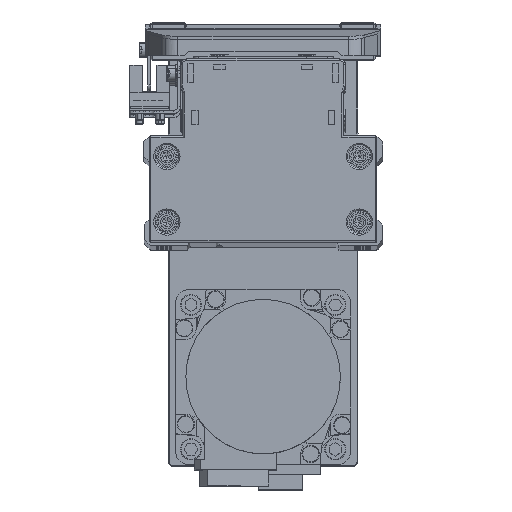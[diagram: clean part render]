
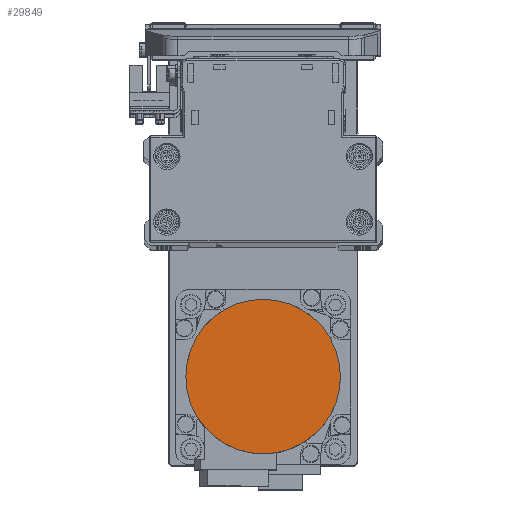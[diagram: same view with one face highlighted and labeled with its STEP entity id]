
A CAD part, top view. The second image highlights one B-rep face of the part: STEP entity #29849.
In plain terms, the highlighted planar face has unit normal (0, 0, 1) as drawn and (0, 0, -1) by its records, which use the part's own axes.
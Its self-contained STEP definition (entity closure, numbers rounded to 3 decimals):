
#1327 = EDGE_LOOP ( 'NONE', ( #11873, #28901 ) ) ;
#2830 = DIRECTION ( 'NONE',  ( -1., 0., 0. ) ) ;
#5673 = VERTEX_POINT ( 'NONE', #19120 ) ;
#7021 = CARTESIAN_POINT ( 'NONE',  ( 0., 0., -109.7 ) ) ;
#10374 = EDGE_CURVE ( 'NONE', #34200, #5673, #36179, .T. ) ;
#11125 = CARTESIAN_POINT ( 'NONE',  ( 0., 0., -109.7 ) ) ;
#11873 = ORIENTED_EDGE ( 'NONE', *, *, #10374, .F. ) ;
#11963 = CARTESIAN_POINT ( 'NONE',  ( -26.5, 0., -109.7 ) ) ;
#17399 = CIRCLE ( 'NONE', #40764, 26.5 ) ;
#18201 = AXIS2_PLACEMENT_3D ( 'NONE', #18687, #31412, #2830 ) ;
#18687 = CARTESIAN_POINT ( 'NONE',  ( 0., 0., -109.7 ) ) ;
#19120 = CARTESIAN_POINT ( 'NONE',  ( 26.5, 0., -109.7 ) ) ;
#19735 = DIRECTION ( 'NONE',  ( 0., 0., 1. ) ) ;
#22871 = FACE_OUTER_BOUND ( 'NONE', #1327, .T. ) ;
#23865 = DIRECTION ( 'NONE',  ( 0., 0., 1. ) ) ;
#28697 = AXIS2_PLACEMENT_3D ( 'NONE', #7021, #19735, #32483 ) ;
#28901 = ORIENTED_EDGE ( 'NONE', *, *, #30427, .F. ) ;
#29849 = ADVANCED_FACE ( 'NONE', ( #22871 ), #35613, .F. ) ;
#30427 = EDGE_CURVE ( 'NONE', #5673, #34200, #17399, .T. ) ;
#31412 = DIRECTION ( 'NONE',  ( 0., 0., 1. ) ) ;
#32483 = DIRECTION ( 'NONE',  ( 1., 0., 0. ) ) ;
#34200 = VERTEX_POINT ( 'NONE', #11963 ) ;
#35613 = PLANE ( 'NONE',  #28697 ) ;
#36179 = CIRCLE ( 'NONE', #18201, 26.5 ) ;
#36604 = DIRECTION ( 'NONE',  ( 1., 0., 0. ) ) ;
#40764 = AXIS2_PLACEMENT_3D ( 'NONE', #11125, #23865, #36604 ) ;
